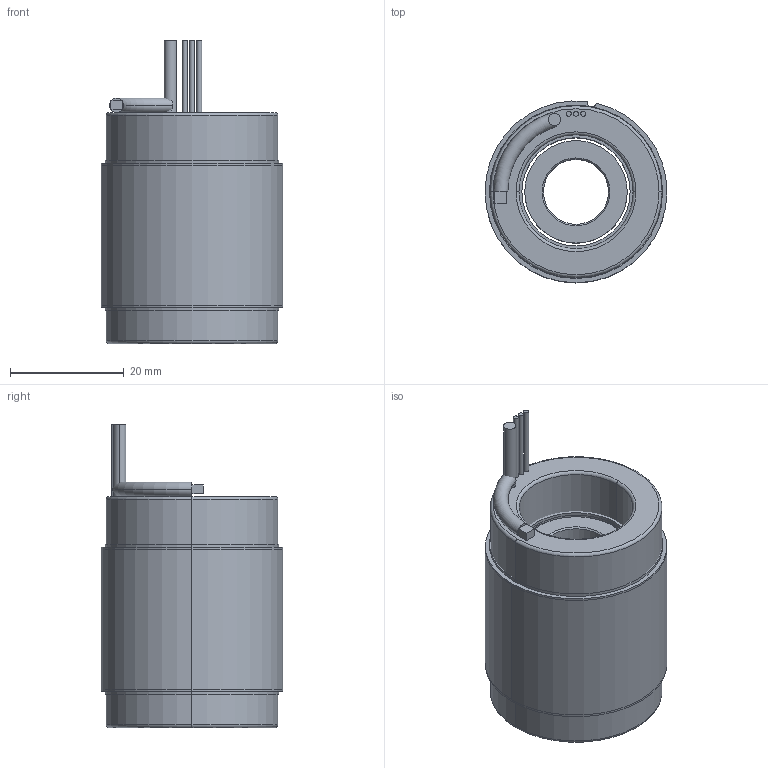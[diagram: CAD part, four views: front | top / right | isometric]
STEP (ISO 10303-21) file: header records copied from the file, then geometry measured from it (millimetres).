
FILE_DESCRIPTION (( 'STEP AP214' ), '1' );
FILE_NAME ('6100335-03.STEP', '2019-10-23T19:58:35', ( '' ), ( '' ), 'SwSTEP 2.0', 'SolidWorks 2016', '' );
FILE_SCHEMA (( 'AUTOMOTIVE_DESIGN' ));
Length unit declared in the file: millimetre
Products named in the file (11): 4600475-00; 4250359-XX_4250359-03; 4450178-XX_4450178-03; 4500538-XX_4500538-03; COMP4500538-XX(COIL)_COMP4500538-03(COIL); 4400096-00; 6100335-03; 4150165-XX_4150165-03
Assembly tree (10 placements, depth 4):
  6100335-03
    4500538-XX_4500538-03
      COMP4500538-XX(COIL)_COMP4500538-03(COIL)
      4450178-XX_4450178-03
        4450178-XX_4450178-03
        4400096-00
        4400096-00
        4600475-00
        4600475-00
    4250359-XX_4250359-03
      4150165-XX_4150165-03
Bounding box: 32 x 31.99 x 53.34 mm (x, y, z)
Volume: 33956.9 mm3; surface area: 19307.6 mm2
Topology: 12 solids, 12 shells, 90 faces, 178 edges, 112 vertices
Faces by surface type: cylinder 44, plane 32, torus 10, cone 4
Entity records: 2841 total; most frequent: DIRECTION 508, CARTESIAN_POINT 396, ORIENTED_EDGE 356, AXIS2_PLACEMENT_3D 224, EDGE_CURVE 178, CIRCLE 118, VERTEX_POINT 112, EDGE_LOOP 104
